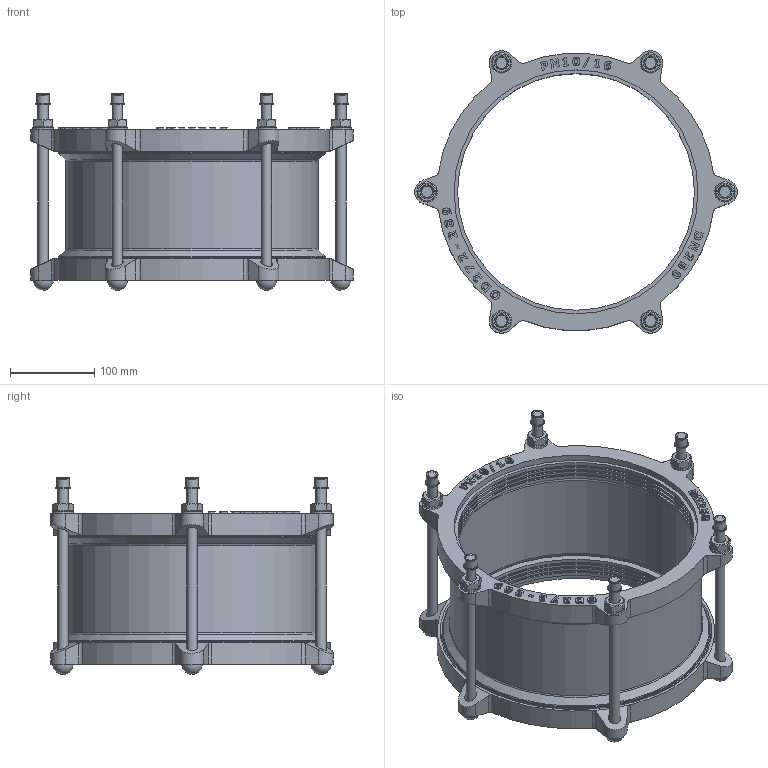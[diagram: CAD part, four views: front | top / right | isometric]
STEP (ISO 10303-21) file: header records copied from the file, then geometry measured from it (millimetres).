
FILE_DESCRIPTION(('STEP AP203'), '1');
FILE_NAME('Cîåäèíèòåëüíàÿ ìóôòà äëÿ æåñòêèõ òðóá', '', ('UNSPECIFIED'), ('UNSPECIFIED'), 'C3D Converter', 'C3D Toolkit', '');
FILE_SCHEMA(('CONFIG_CONTROL_DESIGN'));
Length unit declared in the file: millimetre
Assembly tree (29 placements, depth 2):
  (unnamed)
    (unnamed)
    (unnamed)  x6
    (unnamed)  x6
    (unnamed)  x6
    (unnamed)  x6
    (unnamed)
    (unnamed)
    (unnamed)  x2
Bounding box: 382 x 334.71 x 233.2 mm (x, y, z)
Volume: 2138177.8 mm3; surface area: 740740.5 mm2
Topology: 33 solids, 33 shells, 889 faces, 2214 edges, 1452 vertices
Faces by surface type: extrusion 348, plane 324, cylinder 139, cone 48, torus 24, sphere 6
Full cylindrical faces by diameter (mm): 12 x18, 13 x6, 14 x12, 14.4 x6, 16.8 x6, 21.172 x1, 24 x6, 280.5 x8, 284.75 x6, 289 x3, 294 x2, 299 x3, 316.5 x2, 319 x4
Entity records: 33657 total; most frequent: CARTESIAN_POINT 12236, ORIENTED_EDGE 3664, DIRECTION 2362, EDGE_CURVE 1832, VERTEX_POINT 1250, VECTOR 1176, B_SPLINE_CURVE_WITH_KNOTS 1129, EDGE_LOOP 878
